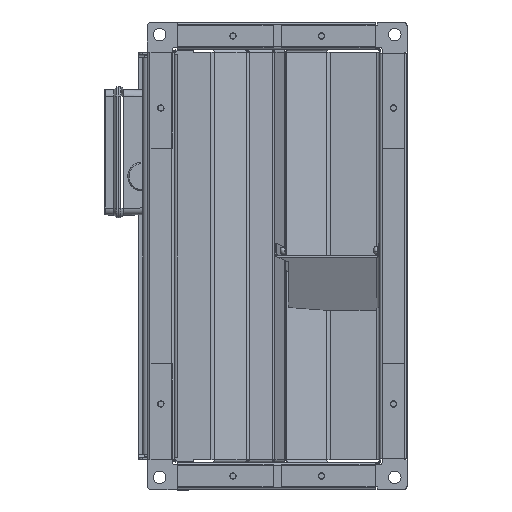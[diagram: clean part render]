
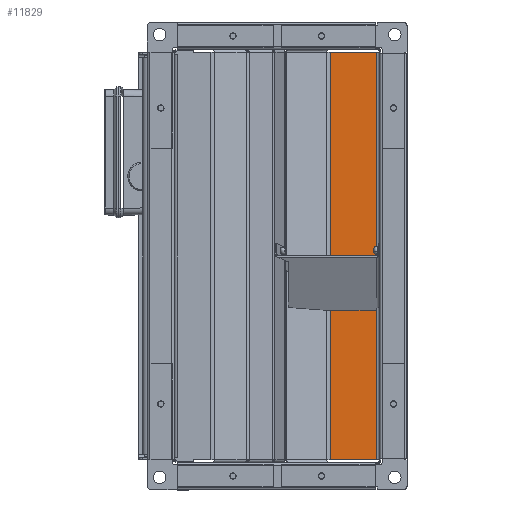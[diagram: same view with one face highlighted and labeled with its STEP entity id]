
A CAD part, left-side view. The second image highlights one B-rep face of the part: STEP entity #11829.
In plain terms, the highlighted planar face has unit normal (1, 0, 0).
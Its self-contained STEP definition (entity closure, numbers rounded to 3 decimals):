
#92 = EDGE_CURVE ( 'NONE', #5243, #5179, #24596, .T. ) ;
#5109 = VERTEX_POINT ( 'NONE', #23173 ) ;
#5136 = VERTEX_POINT ( 'NONE', #23200 ) ;
#5179 = VERTEX_POINT ( 'NONE', #23243 ) ;
#5211 = VERTEX_POINT ( 'NONE', #23275 ) ;
#5243 = VERTEX_POINT ( 'NONE', #23307 ) ;
#5421 = EDGE_CURVE ( 'NONE', #9185, #5243, #41300, .T. ) ;
#5423 = EDGE_CURVE ( 'NONE', #5136, #9185, #41290, .T. ) ;
#5583 = EDGE_LOOP ( 'NONE', ( #42579, #42671 ) ) ;
#5584 = EDGE_LOOP ( 'NONE', ( #42670, #42673, #42672, #42581 ) ) ;
#5821 = CARTESIAN_POINT ( 'NONE',  ( 158.4, 0.8, -149.2 ) ) ;
#5828 = PLANE ( 'NONE',  #14832 ) ;
#5830 = DIRECTION ( 'NONE',  ( 1., 0., 0. ) ) ;
#5831 = DIRECTION ( 'NONE',  ( 0., 0., -1. ) ) ;
#9185 = VERTEX_POINT ( 'NONE', #27976 ) ;
#11829 = ADVANCED_FACE ( 'NONE', ( #22374, #22377 ), #5828, .T. ) ;
#12512 = CARTESIAN_POINT ( 'NONE',  ( 158.4, 36.436, -149.2 ) ) ;
#12520 = DIRECTION ( 'NONE',  ( 0., 0., 1. ) ) ;
#14389 = EDGE_CURVE ( 'NONE', #5179, #5136, #24912, .T. ) ;
#14464 = EDGE_CURVE ( 'NONE', #5109, #5211, #25028, .T. ) ;
#14832 = AXIS2_PLACEMENT_3D ( 'NONE', #5821, #5830, #5831 ) ;
#16144 = EDGE_CURVE ( 'NONE', #5211, #5109, #25205, .T. ) ;
#22374 = FACE_BOUND ( 'NONE', #5583, .T. ) ;
#22377 = FACE_OUTER_BOUND ( 'NONE', #5584, .T. ) ;
#23173 = CARTESIAN_POINT ( 'NONE',  ( 158.4, 17.247, -33.494 ) ) ;
#23200 = CARTESIAN_POINT ( 'NONE',  ( 158.4, 2.8, 147.2 ) ) ;
#23243 = CARTESIAN_POINT ( 'NONE',  ( 158.4, 36.436, 147.2 ) ) ;
#23275 = CARTESIAN_POINT ( 'NONE',  ( 158.4, 21.447, -33.494 ) ) ;
#23307 = CARTESIAN_POINT ( 'NONE',  ( 158.4, 36.436, -147.2 ) ) ;
#24596 = LINE ( 'NONE', #12512, #24601 ) ;
#24601 = VECTOR ( 'NONE', #12520, 1000. ) ;
#24912 = LINE ( 'NONE', #46335, #24915 ) ;
#24915 = VECTOR ( 'NONE', #46336, 1000. ) ;
#25028 = CIRCLE ( 'NONE', #25438, 2.1 ) ;
#25205 = CIRCLE ( 'NONE', #25468, 2.1 ) ;
#25438 = AXIS2_PLACEMENT_3D ( 'NONE', #46521, #46522, #46523 ) ;
#25468 = AXIS2_PLACEMENT_3D ( 'NONE', #32251, #32253, #32255 ) ;
#27976 = CARTESIAN_POINT ( 'NONE',  ( 158.4, 2.8, -147.2 ) ) ;
#32251 = CARTESIAN_POINT ( 'NONE',  ( 158.4, 19.347, -33.494 ) ) ;
#32253 = DIRECTION ( 'NONE',  ( -1., 0., 0. ) ) ;
#32255 = DIRECTION ( 'NONE',  ( 0., 1., 0. ) ) ;
#32667 = CARTESIAN_POINT ( 'NONE',  ( 158.4, 2.307, -147.2 ) ) ;
#32669 = DIRECTION ( 'NONE',  ( 0., 1., 0. ) ) ;
#32677 = DIRECTION ( 'NONE',  ( 0., 0., -1. ) ) ;
#32686 = CARTESIAN_POINT ( 'NONE',  ( 158.4, 2.8, 147.693 ) ) ;
#41290 = LINE ( 'NONE', #32686, #41308 ) ;
#41300 = LINE ( 'NONE', #32667, #41304 ) ;
#41304 = VECTOR ( 'NONE', #32669, 1000. ) ;
#41308 = VECTOR ( 'NONE', #32677, 1000. ) ;
#42579 = ORIENTED_EDGE ( 'NONE', *, *, #16144, .T. ) ;
#42581 = ORIENTED_EDGE ( 'NONE', *, *, #92, .T. ) ;
#42670 = ORIENTED_EDGE ( 'NONE', *, *, #14389, .T. ) ;
#42671 = ORIENTED_EDGE ( 'NONE', *, *, #14464, .T. ) ;
#42672 = ORIENTED_EDGE ( 'NONE', *, *, #5421, .T. ) ;
#42673 = ORIENTED_EDGE ( 'NONE', *, *, #5423, .T. ) ;
#46335 = CARTESIAN_POINT ( 'NONE',  ( 158.4, 36.773, 147.2 ) ) ;
#46336 = DIRECTION ( 'NONE',  ( 0., -1., 0. ) ) ;
#46521 = CARTESIAN_POINT ( 'NONE',  ( 158.4, 19.347, -33.494 ) ) ;
#46522 = DIRECTION ( 'NONE',  ( -1., 0., 0. ) ) ;
#46523 = DIRECTION ( 'NONE',  ( 0., 1., 0. ) ) ;
